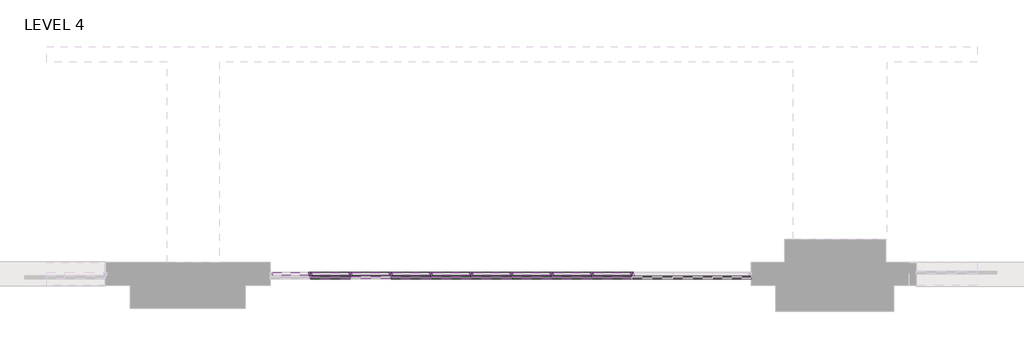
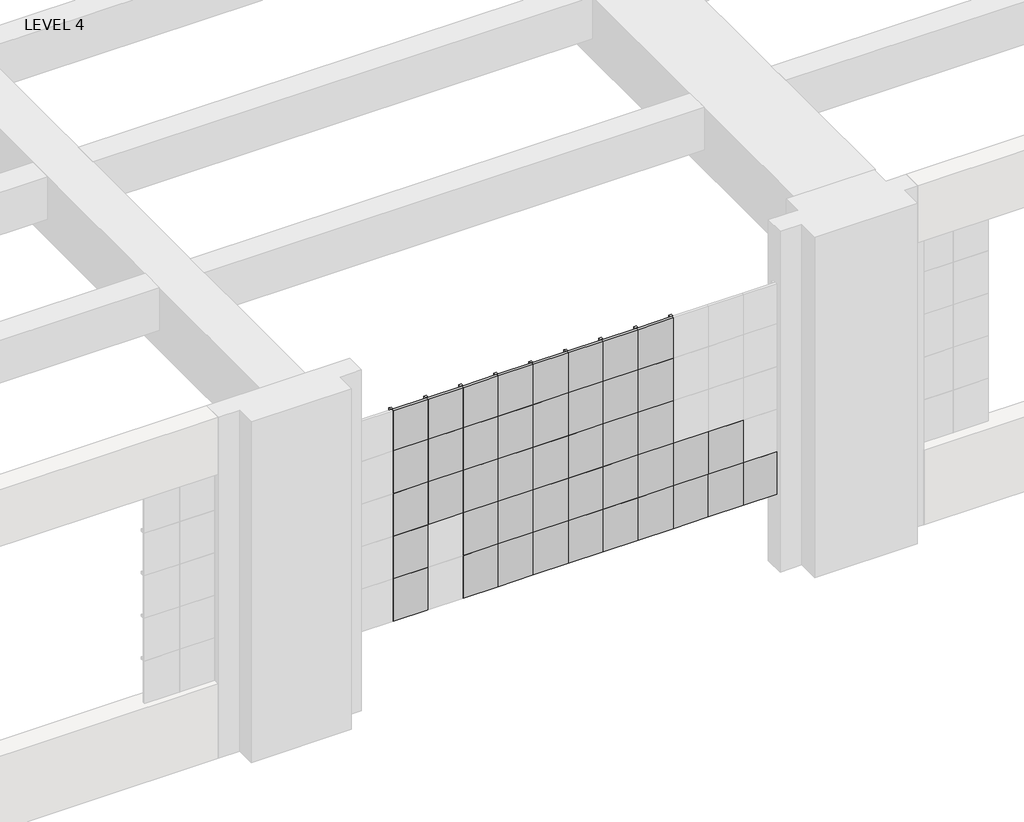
# One storey, part 7 of 26: 89 members, 43 plates.
"""IFC4 building model written with IfcOpenShell, lengths in millimetres."""

from ifc_helpers import new_model, si_unit, origin, place, context, project, spatial, transform, mapped, element, save
from components import member_3d4b608b, member_3c10d71f, member_653bb31e, member_6e26db71, member_d9fec558, system_panel_glazed_ab35d819, system_panel_glazed_331c9a5d, system_panel_glazed_418eb6cd

model = new_model("IFC4")

# Units and contexts
model_context = context("Model", 3, world=origin())
ifc_project = project(units=[si_unit("LENGTHUNIT", "METRE", prefix="MILLI")], contexts=[model_context])

# Site, building, storey
site = spatial("IfcSite", under=ifc_project)
building = spatial("IfcBuilding", under=site)
storey = spatial("IfcBuildingStorey", under=building, Name="LEVEL 4", Elevation=0.0)

# Members
placement = place(None, origin())
member_shape = member_3d4b608b(model_context)
element("IfcMember", 1, ObjectType="Circular Mullion : 1 1/4\" Square", at=placement, inside=storey, context=model_context, shape_type="MappedRepresentation", body=[
    mapped(member_shape, transform((-22006.1456347, 87322.5091334, 2171.7), x_axis=(1.0, 0.0, 0.0), y_axis=(0.0, -1.0, 0.0), z_axis=(0.0, 0.0, -1.0))),
])
element("IfcMember", 2, ObjectType="Circular Mullion : 1 1/4\" Square", at=placement, inside=storey, context=model_context, shape_type="MappedRepresentation", body=[
    mapped(member_shape, transform((-22006.1456347, 87322.5091334, 1714.5), x_axis=(1.0, 0.0, 0.0), y_axis=(0.0, -1.0, 0.0), z_axis=(0.0, 0.0, -1.0))),
])
element("IfcMember", 3, ObjectType="Circular Mullion : 1 1/4\" Square", at=placement, inside=storey, context=model_context, shape_type="MappedRepresentation", body=[
    mapped(member_shape, transform((-22006.1456347, 87322.5091334, 1257.3), x_axis=(1.0, 0.0, 0.0), y_axis=(0.0, -1.0, 0.0), z_axis=(0.0, 0.0, -1.0))),
])
element("IfcMember", 4, ObjectType="Circular Mullion : 1 1/4\" Square", at=placement, inside=storey, context=model_context, shape_type="MappedRepresentation", body=[
    mapped(member_shape, transform((-22361.7456347, 87322.5091334, 2171.7), x_axis=(1.0, 0.0, 0.0), y_axis=(0.0, -1.0, 0.0), z_axis=(0.0, 0.0, -1.0))),
])
element("IfcMember", 5, ObjectType="Circular Mullion : 1 1/4\" Square", at=placement, inside=storey, context=model_context, shape_type="MappedRepresentation", body=[
    mapped(member_shape, transform((-22361.7456347, 87322.5091334, 1714.5), x_axis=(1.0, 0.0, 0.0), y_axis=(0.0, -1.0, 0.0), z_axis=(0.0, 0.0, -1.0))),
])
element("IfcMember", 6, ObjectType="Circular Mullion : 1 1/4\" Square", at=placement, inside=storey, context=model_context, shape_type="MappedRepresentation", body=[
    mapped(member_shape, transform((-22361.7456347, 87322.5091334, 1257.3), x_axis=(1.0, 0.0, 0.0), y_axis=(0.0, -1.0, 0.0), z_axis=(0.0, 0.0, -1.0))),
])
element("IfcMember", 7, ObjectType="Circular Mullion : 1 1/4\" Square", at=placement, inside=storey, context=model_context, shape_type="MappedRepresentation", body=[
    mapped(member_shape, transform((-22717.3456347, 87322.5091334, 2171.7), x_axis=(1.0, 0.0, 0.0), y_axis=(0.0, -1.0, 0.0), z_axis=(0.0, 0.0, -1.0))),
])
element("IfcMember", 8, ObjectType="Circular Mullion : 1 1/4\" Square", at=placement, inside=storey, context=model_context, shape_type="MappedRepresentation", body=[
    mapped(member_shape, transform((-22717.3456347, 87322.5091334, 1714.5), x_axis=(1.0, 0.0, 0.0), y_axis=(0.0, -1.0, 0.0), z_axis=(0.0, 0.0, -1.0))),
])
element("IfcMember", 9, ObjectType="Circular Mullion : 1 1/4\" Square", at=placement, inside=storey, context=model_context, shape_type="MappedRepresentation", body=[
    mapped(member_shape, transform((-22717.3456347, 87322.5091334, 1257.3), x_axis=(1.0, 0.0, 0.0), y_axis=(0.0, -1.0, 0.0), z_axis=(0.0, 0.0, -1.0))),
])
element("IfcMember", 10, ObjectType="Circular Mullion : 1 1/4\" Square", at=placement, inside=storey, context=model_context, shape_type="MappedRepresentation", body=[
    mapped(member_shape, transform((-23072.9456347, 87322.5091334, 2171.7), x_axis=(1.0, 0.0, 0.0), y_axis=(0.0, -1.0, 0.0), z_axis=(0.0, 0.0, -1.0))),
])
element("IfcMember", 11, ObjectType="Circular Mullion : 1 1/4\" Square", at=placement, inside=storey, context=model_context, shape_type="MappedRepresentation", body=[
    mapped(member_shape, transform((-23072.9456347, 87322.5091334, 1714.5), x_axis=(1.0, 0.0, 0.0), y_axis=(0.0, -1.0, 0.0), z_axis=(0.0, 0.0, -1.0))),
])
element("IfcMember", 12, ObjectType="Circular Mullion : 1 1/4\" Square", at=placement, inside=storey, context=model_context, shape_type="MappedRepresentation", body=[
    mapped(member_shape, transform((-23072.9456347, 87322.5091334, 1257.3), x_axis=(1.0, 0.0, 0.0), y_axis=(0.0, -1.0, 0.0), z_axis=(0.0, 0.0, -1.0))),
])
element("IfcMember", 13, ObjectType="Circular Mullion : 1 1/4\" Square", at=placement, inside=storey, context=model_context, shape_type="MappedRepresentation", body=[
    mapped(member_shape, transform((-23428.5456347, 87322.5091334, 2171.7), x_axis=(1.0, 0.0, 0.0), y_axis=(0.0, -1.0, 0.0), z_axis=(0.0, 0.0, -1.0))),
])
element("IfcMember", 14, ObjectType="Circular Mullion : 1 1/4\" Square", at=placement, inside=storey, context=model_context, shape_type="MappedRepresentation", body=[
    mapped(member_shape, transform((-23428.5456347, 87322.5091334, 1714.5), x_axis=(1.0, 0.0, 0.0), y_axis=(0.0, -1.0, 0.0), z_axis=(0.0, 0.0, -1.0))),
])
element("IfcMember", 15, ObjectType="Circular Mullion : 1 1/4\" Square", at=placement, inside=storey, context=model_context, shape_type="MappedRepresentation", body=[
    mapped(member_shape, transform((-23428.5456347, 87322.5091334, 1257.3), x_axis=(1.0, 0.0, 0.0), y_axis=(0.0, -1.0, 0.0), z_axis=(0.0, 0.0, -1.0))),
])
element("IfcMember", 16, ObjectType="Circular Mullion : 1 1/4\" Square", at=placement, inside=storey, context=model_context, shape_type="MappedRepresentation", body=[
    mapped(member_shape, transform((-23784.1456347, 87322.5091334, 2171.7), x_axis=(1.0, 0.0, 0.0), y_axis=(0.0, -1.0, 0.0), z_axis=(0.0, 0.0, -1.0))),
])
element("IfcMember", 17, ObjectType="Circular Mullion : 1 1/4\" Square", at=placement, inside=storey, context=model_context, shape_type="MappedRepresentation", body=[
    mapped(member_shape, transform((-23784.1456347, 87322.5091334, 1714.5), x_axis=(1.0, 0.0, 0.0), y_axis=(0.0, -1.0, 0.0), z_axis=(0.0, 0.0, -1.0))),
])
element("IfcMember", 18, ObjectType="Circular Mullion : 1 1/4\" Square", at=placement, inside=storey, context=model_context, shape_type="MappedRepresentation", body=[
    mapped(member_shape, transform((-23784.1456347, 87322.5091334, 1257.3), x_axis=(1.0, 0.0, 0.0), y_axis=(0.0, -1.0, 0.0), z_axis=(0.0, 0.0, -1.0))),
])
element("IfcMember", 19, ObjectType="Circular Mullion : 1 1/4\" Square", at=placement, inside=storey, context=model_context, shape_type="MappedRepresentation", body=[
    mapped(member_shape, transform((-24139.7456347, 87322.5091334, 2171.7), x_axis=(1.0, 0.0, 0.0), y_axis=(0.0, -1.0, 0.0), z_axis=(0.0, 0.0, -1.0))),
])
element("IfcMember", 20, ObjectType="Circular Mullion : 1 1/4\" Square", at=placement, inside=storey, context=model_context, shape_type="MappedRepresentation", body=[
    mapped(member_shape, transform((-24139.7456347, 87322.5091334, 1714.5), x_axis=(1.0, 0.0, 0.0), y_axis=(0.0, -1.0, 0.0), z_axis=(0.0, 0.0, -1.0))),
])
element("IfcMember", 21, ObjectType="Circular Mullion : 1 1/4\" Square", at=placement, inside=storey, context=model_context, shape_type="MappedRepresentation", body=[
    mapped(member_shape, transform((-24139.7456347, 87322.5091334, 1257.3), x_axis=(1.0, 0.0, 0.0), y_axis=(0.0, -1.0, 0.0), z_axis=(0.0, 0.0, -1.0))),
])
element("IfcMember", 22, ObjectType="Circular Mullion : 1 1/4\" Square", at=placement, inside=storey, context=model_context, shape_type="MappedRepresentation", body=[
    mapped(member_shape, transform((-24495.3456347, 87322.5091334, 2171.7), x_axis=(1.0, 0.0, 0.0), y_axis=(0.0, -1.0, 0.0), z_axis=(0.0, 0.0, -1.0))),
])
element("IfcMember", 23, ObjectType="Circular Mullion : 1 1/4\" Square", at=placement, inside=storey, context=model_context, shape_type="MappedRepresentation", body=[
    mapped(member_shape, transform((-24495.3456347, 87322.5091334, 1714.5), x_axis=(1.0, 0.0, 0.0), y_axis=(0.0, -1.0, 0.0), z_axis=(0.0, 0.0, -1.0))),
])
element("IfcMember", 24, ObjectType="Circular Mullion : 1 1/4\" Square", at=placement, inside=storey, context=model_context, shape_type="MappedRepresentation", body=[
    mapped(member_shape, transform((-24495.3456347, 87322.5091334, 1257.3), x_axis=(1.0, 0.0, 0.0), y_axis=(0.0, -1.0, 0.0), z_axis=(0.0, 0.0, -1.0))),
])
element("IfcMember", 25, ObjectType="Circular Mullion : 1 1/4\" Square", at=placement, inside=storey, context=model_context, shape_type="MappedRepresentation", body=[
    mapped(member_shape, transform((-24850.9456347, 87322.5091334, 2171.7), x_axis=(1.0, 0.0, 0.0), y_axis=(0.0, -1.0, 0.0), z_axis=(0.0, 0.0, -1.0))),
])
element("IfcMember", 26, ObjectType="Circular Mullion : 1 1/4\" Square", at=placement, inside=storey, context=model_context, shape_type="MappedRepresentation", body=[
    mapped(member_shape, transform((-24850.9456347, 87322.5091334, 1714.5), x_axis=(1.0, 0.0, 0.0), y_axis=(0.0, -1.0, 0.0), z_axis=(0.0, 0.0, -1.0))),
])
element("IfcMember", 27, ObjectType="Circular Mullion : 1 1/4\" Square", at=placement, inside=storey, context=model_context, shape_type="MappedRepresentation", body=[
    mapped(member_shape, transform((-24850.9456347, 87322.5091334, 1257.3), x_axis=(1.0, 0.0, 0.0), y_axis=(0.0, -1.0, 0.0), z_axis=(0.0, 0.0, -1.0))),
])
element("IfcMember", 28, ObjectType="Circular Mullion : 1 1/4\" Square", at=placement, inside=storey, context=model_context, shape_type="MappedRepresentation", body=[
    mapped(member_shape, transform((-22006.1456347, 87322.5091334, 800.1), x_axis=(1.0, 0.0, 0.0), y_axis=(0.0, -1.0, 0.0), z_axis=(0.0, 0.0, -1.0))),
])
element("IfcMember", 29, ObjectType="Circular Mullion : 1 1/4\" Square", at=placement, inside=storey, context=model_context, shape_type="MappedRepresentation", body=[
    mapped(member_shape, transform((-22361.7456347, 87322.5091334, 800.1), x_axis=(1.0, 0.0, 0.0), y_axis=(0.0, -1.0, 0.0), z_axis=(0.0, 0.0, -1.0))),
])
element("IfcMember", 30, ObjectType="Circular Mullion : 1 1/4\" Square", at=placement, inside=storey, context=model_context, shape_type="MappedRepresentation", body=[
    mapped(member_shape, transform((-22717.3456347, 87322.5091334, 800.1), x_axis=(1.0, 0.0, 0.0), y_axis=(0.0, -1.0, 0.0), z_axis=(0.0, 0.0, -1.0))),
])
element("IfcMember", 31, ObjectType="Circular Mullion : 1 1/4\" Square", at=placement, inside=storey, context=model_context, shape_type="MappedRepresentation", body=[
    mapped(member_shape, transform((-23072.9456347, 87322.5091334, 800.1), x_axis=(1.0, 0.0, 0.0), y_axis=(0.0, -1.0, 0.0), z_axis=(0.0, 0.0, -1.0))),
])
element("IfcMember", 32, ObjectType="Circular Mullion : 1 1/4\" Square", at=placement, inside=storey, context=model_context, shape_type="MappedRepresentation", body=[
    mapped(member_shape, transform((-23428.5456347, 87322.5091334, 800.1), x_axis=(1.0, 0.0, 0.0), y_axis=(0.0, -1.0, 0.0), z_axis=(0.0, 0.0, -1.0))),
])
element("IfcMember", 33, ObjectType="Circular Mullion : 1 1/4\" Square", at=placement, inside=storey, context=model_context, shape_type="MappedRepresentation", body=[
    mapped(member_shape, transform((-23784.1456347, 87322.5091334, 800.1), x_axis=(1.0, 0.0, 0.0), y_axis=(0.0, -1.0, 0.0), z_axis=(0.0, 0.0, -1.0))),
])
element("IfcMember", 34, ObjectType="Circular Mullion : 1 1/4\" Square", at=placement, inside=storey, context=model_context, shape_type="MappedRepresentation", body=[
    mapped(member_shape, transform((-24139.7456347, 87322.5091334, 800.1), x_axis=(1.0, 0.0, 0.0), y_axis=(0.0, -1.0, 0.0), z_axis=(0.0, 0.0, -1.0))),
])
element("IfcMember", 35, ObjectType="Circular Mullion : 1 1/4\" Square", at=placement, inside=storey, context=model_context, shape_type="MappedRepresentation", body=[
    mapped(member_shape, transform((-24495.3456347, 87322.5091334, 800.1), x_axis=(1.0, 0.0, 0.0), y_axis=(0.0, -1.0, 0.0), z_axis=(0.0, 0.0, -1.0))),
])
element("IfcMember", 36, ObjectType="Circular Mullion : 1 1/4\" Square", at=placement, inside=storey, context=model_context, shape_type="MappedRepresentation", body=[
    mapped(member_shape, transform((-24850.9456347, 87322.5091334, 800.1), x_axis=(1.0, 0.0, 0.0), y_axis=(0.0, -1.0, 0.0), z_axis=(0.0, 0.0, -1.0))),
])
member_2_shape = member_3c10d71f(model_context)
element("IfcMember", 37, ObjectType="Circular Mullion : 1 1/4\" Square", at=placement, inside=storey, context=model_context, shape_type="MappedRepresentation", body=[
    mapped(member_2_shape, transform((-24838.2456347, 87322.5091334, 800.1), x_axis=(0.0, 0.0, -1.0), y_axis=(0.0, -1.0, 0.0), z_axis=(-1.0, 0.0, 0.0))),
])
element("IfcMember", 38, ObjectType="Circular Mullion : 1 1/4\" Square", at=placement, inside=storey, context=model_context, shape_type="MappedRepresentation", body=[
    mapped(member_2_shape, transform((-24482.6456347, 87322.5091334, 800.1), x_axis=(0.0, 0.0, -1.0), y_axis=(0.0, -1.0, 0.0), z_axis=(-1.0, 0.0, 0.0))),
])
element("IfcMember", 39, ObjectType="Circular Mullion : 1 1/4\" Square", at=placement, inside=storey, context=model_context, shape_type="MappedRepresentation", body=[
    mapped(member_2_shape, transform((-24127.0456347, 87322.5091334, 800.1), x_axis=(0.0, 0.0, -1.0), y_axis=(0.0, -1.0, 0.0), z_axis=(-1.0, 0.0, 0.0))),
])
element("IfcMember", 40, ObjectType="Circular Mullion : 1 1/4\" Square", at=placement, inside=storey, context=model_context, shape_type="MappedRepresentation", body=[
    mapped(member_2_shape, transform((-23771.4456347, 87322.5091334, 800.1), x_axis=(0.0, 0.0, -1.0), y_axis=(0.0, -1.0, 0.0), z_axis=(-1.0, 0.0, 0.0))),
])
element("IfcMember", 41, ObjectType="Circular Mullion : 1 1/4\" Square", at=placement, inside=storey, context=model_context, shape_type="MappedRepresentation", body=[
    mapped(member_2_shape, transform((-23415.8456347, 87322.5091334, 800.1), x_axis=(0.0, 0.0, -1.0), y_axis=(0.0, -1.0, 0.0), z_axis=(-1.0, 0.0, 0.0))),
])
element("IfcMember", 42, ObjectType="Circular Mullion : 1 1/4\" Square", at=placement, inside=storey, context=model_context, shape_type="MappedRepresentation", body=[
    mapped(member_2_shape, transform((-23060.2456347, 87322.5091334, 800.1), x_axis=(0.0, 0.0, -1.0), y_axis=(0.0, -1.0, 0.0), z_axis=(-1.0, 0.0, 0.0))),
])
element("IfcMember", 43, ObjectType="Circular Mullion : 1 1/4\" Square", at=placement, inside=storey, context=model_context, shape_type="MappedRepresentation", body=[
    mapped(member_2_shape, transform((-22704.6456347, 87322.5091334, 800.1), x_axis=(0.0, 0.0, -1.0), y_axis=(0.0, -1.0, 0.0), z_axis=(-1.0, 0.0, 0.0))),
])
element("IfcMember", 44, ObjectType="Circular Mullion : 1 1/4\" Square", at=placement, inside=storey, context=model_context, shape_type="MappedRepresentation", body=[
    mapped(member_2_shape, transform((-22349.0456347, 87322.5091334, 800.1), x_axis=(0.0, 0.0, -1.0), y_axis=(0.0, -1.0, 0.0), z_axis=(-1.0, 0.0, 0.0))),
])
member_3_shape = member_653bb31e(model_context)
element("IfcMember", 45, ObjectType="Circular Mullion : 1 1/4\" Square", at=placement, inside=storey, context=model_context, shape_type="MappedRepresentation", body=[
    mapped(member_3_shape, transform((-24508.0456347, 87322.5091334, 2628.9), x_axis=(0.0, 0.0, 1.0), y_axis=(0.0, -1.0, 0.0), z_axis=(1.0, 0.0, 0.0))),
])
element("IfcMember", 46, ObjectType="Circular Mullion : 1 1/4\" Square", at=placement, inside=storey, context=model_context, shape_type="MappedRepresentation", body=[
    mapped(member_3_shape, transform((-24152.4456347, 87322.5091334, 2628.9), x_axis=(0.0, 0.0, 1.0), y_axis=(0.0, -1.0, 0.0), z_axis=(1.0, 0.0, 0.0))),
])
element("IfcMember", 47, ObjectType="Circular Mullion : 1 1/4\" Square", at=placement, inside=storey, context=model_context, shape_type="MappedRepresentation", body=[
    mapped(member_3_shape, transform((-23796.8456347, 87322.5091334, 2628.9), x_axis=(0.0, 0.0, 1.0), y_axis=(0.0, -1.0, 0.0), z_axis=(1.0, 0.0, 0.0))),
])
element("IfcMember", 48, ObjectType="Circular Mullion : 1 1/4\" Square", at=placement, inside=storey, context=model_context, shape_type="MappedRepresentation", body=[
    mapped(member_3_shape, transform((-23441.2456347, 87322.5091334, 2628.9), x_axis=(0.0, 0.0, 1.0), y_axis=(0.0, -1.0, 0.0), z_axis=(1.0, 0.0, 0.0))),
])
element("IfcMember", 49, ObjectType="Circular Mullion : 1 1/4\" Square", at=placement, inside=storey, context=model_context, shape_type="MappedRepresentation", body=[
    mapped(member_3_shape, transform((-23085.6456347, 87322.5091334, 2628.9), x_axis=(0.0, 0.0, 1.0), y_axis=(0.0, -1.0, 0.0), z_axis=(1.0, 0.0, 0.0))),
])
element("IfcMember", 50, ObjectType="Circular Mullion : 1 1/4\" Square", at=placement, inside=storey, context=model_context, shape_type="MappedRepresentation", body=[
    mapped(member_3_shape, transform((-22730.0456347, 87322.5091334, 2628.9), x_axis=(0.0, 0.0, 1.0), y_axis=(0.0, -1.0, 0.0), z_axis=(1.0, 0.0, 0.0))),
])
element("IfcMember", 51, ObjectType="Circular Mullion : 1 1/4\" Square", at=placement, inside=storey, context=model_context, shape_type="MappedRepresentation", body=[
    mapped(member_3_shape, transform((-22374.4456347, 87322.5091334, 2628.9), x_axis=(0.0, 0.0, 1.0), y_axis=(0.0, -1.0, 0.0), z_axis=(1.0, 0.0, 0.0))),
])
element("IfcMember", 52, ObjectType="Circular Mullion : 1 1/4\" Square", at=placement, inside=storey, context=model_context, shape_type="MappedRepresentation", body=[
    mapped(member_3_shape, transform((-22018.8456347, 87322.5091334, 2628.9), x_axis=(0.0, 0.0, 1.0), y_axis=(0.0, -1.0, 0.0), z_axis=(1.0, 0.0, 0.0))),
])
element("IfcMember", 53, ObjectType="Circular Mullion : 1 1/4\" Square", at=placement, inside=storey, context=model_context, shape_type="MappedRepresentation", body=[
    mapped(member_3_shape, transform((-24508.0456347, 87322.5091334, 2171.7), x_axis=(0.0, 0.0, 1.0), y_axis=(0.0, -1.0, 0.0), z_axis=(1.0, 0.0, 0.0))),
])
element("IfcMember", 54, ObjectType="Circular Mullion : 1 1/4\" Square", at=placement, inside=storey, context=model_context, shape_type="MappedRepresentation", body=[
    mapped(member_3_shape, transform((-24152.4456347, 87322.5091334, 2171.7), x_axis=(0.0, 0.0, 1.0), y_axis=(0.0, -1.0, 0.0), z_axis=(1.0, 0.0, 0.0))),
])
element("IfcMember", 55, ObjectType="Circular Mullion : 1 1/4\" Square", at=placement, inside=storey, context=model_context, shape_type="MappedRepresentation", body=[
    mapped(member_3_shape, transform((-23796.8456347, 87322.5091334, 2171.7), x_axis=(0.0, 0.0, 1.0), y_axis=(0.0, -1.0, 0.0), z_axis=(1.0, 0.0, 0.0))),
])
element("IfcMember", 56, ObjectType="Circular Mullion : 1 1/4\" Square", at=placement, inside=storey, context=model_context, shape_type="MappedRepresentation", body=[
    mapped(member_3_shape, transform((-23441.2456347, 87322.5091334, 2171.7), x_axis=(0.0, 0.0, 1.0), y_axis=(0.0, -1.0, 0.0), z_axis=(1.0, 0.0, 0.0))),
])
element("IfcMember", 57, ObjectType="Circular Mullion : 1 1/4\" Square", at=placement, inside=storey, context=model_context, shape_type="MappedRepresentation", body=[
    mapped(member_3_shape, transform((-23085.6456347, 87322.5091334, 2171.7), x_axis=(0.0, 0.0, 1.0), y_axis=(0.0, -1.0, 0.0), z_axis=(1.0, 0.0, 0.0))),
])
element("IfcMember", 58, ObjectType="Circular Mullion : 1 1/4\" Square", at=placement, inside=storey, context=model_context, shape_type="MappedRepresentation", body=[
    mapped(member_3_shape, transform((-22730.0456347, 87322.5091334, 2171.7), x_axis=(0.0, 0.0, 1.0), y_axis=(0.0, -1.0, 0.0), z_axis=(1.0, 0.0, 0.0))),
])
element("IfcMember", 59, ObjectType="Circular Mullion : 1 1/4\" Square", at=placement, inside=storey, context=model_context, shape_type="MappedRepresentation", body=[
    mapped(member_3_shape, transform((-22374.4456347, 87322.5091334, 2171.7), x_axis=(0.0, 0.0, 1.0), y_axis=(0.0, -1.0, 0.0), z_axis=(1.0, 0.0, 0.0))),
])
element("IfcMember", 60, ObjectType="Circular Mullion : 1 1/4\" Square", at=placement, inside=storey, context=model_context, shape_type="MappedRepresentation", body=[
    mapped(member_3_shape, transform((-22018.8456347, 87322.5091334, 2171.7), x_axis=(0.0, 0.0, 1.0), y_axis=(0.0, -1.0, 0.0), z_axis=(1.0, 0.0, 0.0))),
])
element("IfcMember", 61, ObjectType="Circular Mullion : 1 1/4\" Square", at=placement, inside=storey, context=model_context, shape_type="MappedRepresentation", body=[
    mapped(member_3_shape, transform((-24508.0456347, 87322.5091334, 1714.5), x_axis=(0.0, 0.0, 1.0), y_axis=(0.0, -1.0, 0.0), z_axis=(1.0, 0.0, 0.0))),
])
element("IfcMember", 62, ObjectType="Circular Mullion : 1 1/4\" Square", at=placement, inside=storey, context=model_context, shape_type="MappedRepresentation", body=[
    mapped(member_3_shape, transform((-24152.4456347, 87322.5091334, 1714.5), x_axis=(0.0, 0.0, 1.0), y_axis=(0.0, -1.0, 0.0), z_axis=(1.0, 0.0, 0.0))),
])
element("IfcMember", 63, ObjectType="Circular Mullion : 1 1/4\" Square", at=placement, inside=storey, context=model_context, shape_type="MappedRepresentation", body=[
    mapped(member_3_shape, transform((-23796.8456347, 87322.5091334, 1714.5), x_axis=(0.0, 0.0, 1.0), y_axis=(0.0, -1.0, 0.0), z_axis=(1.0, 0.0, 0.0))),
])
element("IfcMember", 64, ObjectType="Circular Mullion : 1 1/4\" Square", at=placement, inside=storey, context=model_context, shape_type="MappedRepresentation", body=[
    mapped(member_3_shape, transform((-23441.2456347, 87322.5091334, 1714.5), x_axis=(0.0, 0.0, 1.0), y_axis=(0.0, -1.0, 0.0), z_axis=(1.0, 0.0, 0.0))),
])
element("IfcMember", 65, ObjectType="Circular Mullion : 1 1/4\" Square", at=placement, inside=storey, context=model_context, shape_type="MappedRepresentation", body=[
    mapped(member_3_shape, transform((-23085.6456347, 87322.5091334, 1714.5), x_axis=(0.0, 0.0, 1.0), y_axis=(0.0, -1.0, 0.0), z_axis=(1.0, 0.0, 0.0))),
])
element("IfcMember", 66, ObjectType="Circular Mullion : 1 1/4\" Square", at=placement, inside=storey, context=model_context, shape_type="MappedRepresentation", body=[
    mapped(member_3_shape, transform((-22730.0456347, 87322.5091334, 1714.5), x_axis=(0.0, 0.0, 1.0), y_axis=(0.0, -1.0, 0.0), z_axis=(1.0, 0.0, 0.0))),
])
element("IfcMember", 67, ObjectType="Circular Mullion : 1 1/4\" Square", at=placement, inside=storey, context=model_context, shape_type="MappedRepresentation", body=[
    mapped(member_3_shape, transform((-22374.4456347, 87322.5091334, 1714.5), x_axis=(0.0, 0.0, 1.0), y_axis=(0.0, -1.0, 0.0), z_axis=(1.0, 0.0, 0.0))),
])
element("IfcMember", 68, ObjectType="Circular Mullion : 1 1/4\" Square", at=placement, inside=storey, context=model_context, shape_type="MappedRepresentation", body=[
    mapped(member_3_shape, transform((-22018.8456347, 87322.5091334, 1714.5), x_axis=(0.0, 0.0, 1.0), y_axis=(0.0, -1.0, 0.0), z_axis=(1.0, 0.0, 0.0))),
])
element("IfcMember", 69, ObjectType="Circular Mullion : 1 1/4\" Square", at=placement, inside=storey, context=model_context, shape_type="MappedRepresentation", body=[
    mapped(member_3_shape, transform((-24508.0456347, 87322.5091334, 1257.3), x_axis=(0.0, 0.0, 1.0), y_axis=(0.0, -1.0, 0.0), z_axis=(1.0, 0.0, 0.0))),
])
element("IfcMember", 70, ObjectType="Circular Mullion : 1 1/4\" Square", at=placement, inside=storey, context=model_context, shape_type="MappedRepresentation", body=[
    mapped(member_3_shape, transform((-24152.4456347, 87322.5091334, 1257.3), x_axis=(0.0, 0.0, 1.0), y_axis=(0.0, -1.0, 0.0), z_axis=(1.0, 0.0, 0.0))),
])
element("IfcMember", 71, ObjectType="Circular Mullion : 1 1/4\" Square", at=placement, inside=storey, context=model_context, shape_type="MappedRepresentation", body=[
    mapped(member_3_shape, transform((-23796.8456347, 87322.5091334, 1257.3), x_axis=(0.0, 0.0, 1.0), y_axis=(0.0, -1.0, 0.0), z_axis=(1.0, 0.0, 0.0))),
])
element("IfcMember", 72, ObjectType="Circular Mullion : 1 1/4\" Square", at=placement, inside=storey, context=model_context, shape_type="MappedRepresentation", body=[
    mapped(member_3_shape, transform((-23441.2456347, 87322.5091334, 1257.3), x_axis=(0.0, 0.0, 1.0), y_axis=(0.0, -1.0, 0.0), z_axis=(1.0, 0.0, 0.0))),
])
element("IfcMember", 73, ObjectType="Circular Mullion : 1 1/4\" Square", at=placement, inside=storey, context=model_context, shape_type="MappedRepresentation", body=[
    mapped(member_3_shape, transform((-23085.6456347, 87322.5091334, 1257.3), x_axis=(0.0, 0.0, 1.0), y_axis=(0.0, -1.0, 0.0), z_axis=(1.0, 0.0, 0.0))),
])
element("IfcMember", 74, ObjectType="Circular Mullion : 1 1/4\" Square", at=placement, inside=storey, context=model_context, shape_type="MappedRepresentation", body=[
    mapped(member_3_shape, transform((-22730.0456347, 87322.5091334, 1257.3), x_axis=(0.0, 0.0, 1.0), y_axis=(0.0, -1.0, 0.0), z_axis=(1.0, 0.0, 0.0))),
])
element("IfcMember", 75, ObjectType="Circular Mullion : 1 1/4\" Square", at=placement, inside=storey, context=model_context, shape_type="MappedRepresentation", body=[
    mapped(member_3_shape, transform((-22374.4456347, 87322.5091334, 1257.3), x_axis=(0.0, 0.0, 1.0), y_axis=(0.0, -1.0, 0.0), z_axis=(1.0, 0.0, 0.0))),
])
element("IfcMember", 76, ObjectType="Circular Mullion : 1 1/4\" Square", at=placement, inside=storey, context=model_context, shape_type="MappedRepresentation", body=[
    mapped(member_3_shape, transform((-22018.8456347, 87322.5091334, 1257.3), x_axis=(0.0, 0.0, 1.0), y_axis=(0.0, -1.0, 0.0), z_axis=(1.0, 0.0, 0.0))),
])
member_4_shape = member_6e26db71(model_context)
element("IfcMember", 77, ObjectType="Circular Mullion : 1 1/4\" Square", at=placement, inside=storey, context=model_context, shape_type="MappedRepresentation", body=[
    mapped(member_4_shape, transform((-24863.6456347, 87322.5091334, 2628.9), x_axis=(0.0, 0.0, 1.0), y_axis=(0.0, -1.0, 0.0), z_axis=(1.0, 0.0, 0.0))),
])
element("IfcMember", 78, ObjectType="Circular Mullion : 1 1/4\" Square", at=placement, inside=storey, context=model_context, shape_type="MappedRepresentation", body=[
    mapped(member_4_shape, transform((-24863.6456347, 87322.5091334, 2171.7), x_axis=(0.0, 0.0, 1.0), y_axis=(0.0, -1.0, 0.0), z_axis=(1.0, 0.0, 0.0))),
])
element("IfcMember", 79, ObjectType="Circular Mullion : 1 1/4\" Square", at=placement, inside=storey, context=model_context, shape_type="MappedRepresentation", body=[
    mapped(member_4_shape, transform((-24863.6456347, 87322.5091334, 1714.5), x_axis=(0.0, 0.0, 1.0), y_axis=(0.0, -1.0, 0.0), z_axis=(1.0, 0.0, 0.0))),
])
element("IfcMember", 80, ObjectType="Circular Mullion : 1 1/4\" Square", at=placement, inside=storey, context=model_context, shape_type="MappedRepresentation", body=[
    mapped(member_4_shape, transform((-24863.6456347, 87322.5091334, 1257.3), x_axis=(0.0, 0.0, 1.0), y_axis=(0.0, -1.0, 0.0), z_axis=(1.0, 0.0, 0.0))),
])
member_5_shape = member_d9fec558(model_context)
element("IfcMember", 81, ObjectType="Circular Mullion : 1 1/4\" Square", at=placement, inside=storey, context=model_context, shape_type="MappedRepresentation", body=[
    mapped(member_5_shape, transform((-22006.1456347, 87322.5091334, 2628.9), x_axis=(1.0, 0.0, 0.0), y_axis=(0.0, -1.0, 0.0), z_axis=(0.0, 0.0, -1.0))),
])
element("IfcMember", 82, ObjectType="Circular Mullion : 1 1/4\" Square", at=placement, inside=storey, context=model_context, shape_type="MappedRepresentation", body=[
    mapped(member_5_shape, transform((-22361.7456347, 87322.5091334, 2628.9), x_axis=(1.0, 0.0, 0.0), y_axis=(0.0, -1.0, 0.0), z_axis=(0.0, 0.0, -1.0))),
])
element("IfcMember", 83, ObjectType="Circular Mullion : 1 1/4\" Square", at=placement, inside=storey, context=model_context, shape_type="MappedRepresentation", body=[
    mapped(member_5_shape, transform((-22717.3456347, 87322.5091334, 2628.9), x_axis=(1.0, 0.0, 0.0), y_axis=(0.0, -1.0, 0.0), z_axis=(0.0, 0.0, -1.0))),
])
element("IfcMember", 84, ObjectType="Circular Mullion : 1 1/4\" Square", at=placement, inside=storey, context=model_context, shape_type="MappedRepresentation", body=[
    mapped(member_5_shape, transform((-23072.9456347, 87322.5091334, 2628.9), x_axis=(1.0, 0.0, 0.0), y_axis=(0.0, -1.0, 0.0), z_axis=(0.0, 0.0, -1.0))),
])
element("IfcMember", 85, ObjectType="Circular Mullion : 1 1/4\" Square", at=placement, inside=storey, context=model_context, shape_type="MappedRepresentation", body=[
    mapped(member_5_shape, transform((-23428.5456347, 87322.5091334, 2628.9), x_axis=(1.0, 0.0, 0.0), y_axis=(0.0, -1.0, 0.0), z_axis=(0.0, 0.0, -1.0))),
])
element("IfcMember", 86, ObjectType="Circular Mullion : 1 1/4\" Square", at=placement, inside=storey, context=model_context, shape_type="MappedRepresentation", body=[
    mapped(member_5_shape, transform((-23784.1456347, 87322.5091334, 2628.9), x_axis=(1.0, 0.0, 0.0), y_axis=(0.0, -1.0, 0.0), z_axis=(0.0, 0.0, -1.0))),
])
element("IfcMember", 87, ObjectType="Circular Mullion : 1 1/4\" Square", at=placement, inside=storey, context=model_context, shape_type="MappedRepresentation", body=[
    mapped(member_5_shape, transform((-24139.7456347, 87322.5091334, 2628.9), x_axis=(1.0, 0.0, 0.0), y_axis=(0.0, -1.0, 0.0), z_axis=(0.0, 0.0, -1.0))),
])
element("IfcMember", 88, ObjectType="Circular Mullion : 1 1/4\" Square", at=placement, inside=storey, context=model_context, shape_type="MappedRepresentation", body=[
    mapped(member_5_shape, transform((-24495.3456347, 87322.5091334, 2628.9), x_axis=(1.0, 0.0, 0.0), y_axis=(0.0, -1.0, 0.0), z_axis=(0.0, 0.0, -1.0))),
])
element("IfcMember", 89, ObjectType="Circular Mullion : 1 1/4\" Square", at=placement, inside=storey, context=model_context, shape_type="MappedRepresentation", body=[
    mapped(member_5_shape, transform((-24850.9456347, 87322.5091334, 2628.9), x_axis=(1.0, 0.0, 0.0), y_axis=(0.0, -1.0, 0.0), z_axis=(0.0, 0.0, -1.0))),
])

# Plates
system_panel_glazed_shape = system_panel_glazed_ab35d819(model_context)
element("IfcPlate", 90, ObjectType="System Panel : Glazed", at=placement, inside=storey, context=model_context, shape_type="MappedRepresentation", body=[
    mapped(system_panel_glazed_shape, transform((-21472.7456347, 87322.5091334, 800.1), x_axis=(1.0, 0.0, 0.0), y_axis=(0.0, 1.0, 0.0), z_axis=(0.0, 0.0, 1.0))),
])
element("IfcPlate", 91, ObjectType="System Panel : Glazed", at=placement, inside=storey, context=model_context, shape_type="MappedRepresentation", body=[
    mapped(system_panel_glazed_shape, transform((-21828.3456347, 87322.5091334, 800.1), x_axis=(1.0, 0.0, 0.0), y_axis=(0.0, 1.0, 0.0), z_axis=(0.0, 0.0, 1.0))),
])
element("IfcPlate", 92, ObjectType="System Panel : Glazed", at=placement, inside=storey, context=model_context, shape_type="MappedRepresentation", body=[
    mapped(system_panel_glazed_shape, transform((-22183.9456347, 87322.5091334, 800.1), x_axis=(1.0, 0.0, 0.0), y_axis=(0.0, 1.0, 0.0), z_axis=(0.0, 0.0, 1.0))),
])
element("IfcPlate", 93, ObjectType="System Panel : Glazed", at=placement, inside=storey, context=model_context, shape_type="MappedRepresentation", body=[
    mapped(system_panel_glazed_shape, transform((-22539.5456347, 87322.5091334, 800.1), x_axis=(1.0, 0.0, 0.0), y_axis=(0.0, 1.0, 0.0), z_axis=(0.0, 0.0, 1.0))),
])
element("IfcPlate", 94, ObjectType="System Panel : Glazed", at=placement, inside=storey, context=model_context, shape_type="MappedRepresentation", body=[
    mapped(system_panel_glazed_shape, transform((-22895.1456347, 87322.5091334, 800.1), x_axis=(1.0, 0.0, 0.0), y_axis=(0.0, 1.0, 0.0), z_axis=(0.0, 0.0, 1.0))),
])
element("IfcPlate", 95, ObjectType="System Panel : Glazed", at=placement, inside=storey, context=model_context, shape_type="MappedRepresentation", body=[
    mapped(system_panel_glazed_shape, transform((-23250.7456347, 87322.5091334, 800.1), x_axis=(1.0, 0.0, 0.0), y_axis=(0.0, 1.0, 0.0), z_axis=(0.0, 0.0, 1.0))),
])
element("IfcPlate", 96, ObjectType="System Panel : Glazed", at=placement, inside=storey, context=model_context, shape_type="MappedRepresentation", body=[
    mapped(system_panel_glazed_shape, transform((-23606.3456347, 87322.5091334, 800.1), x_axis=(1.0, 0.0, 0.0), y_axis=(0.0, 1.0, 0.0), z_axis=(0.0, 0.0, 1.0))),
])
element("IfcPlate", 97, ObjectType="System Panel : Glazed", at=placement, inside=storey, context=model_context, shape_type="MappedRepresentation", body=[
    mapped(system_panel_glazed_shape, transform((-23961.9456347, 87322.5091334, 800.1), x_axis=(1.0, 0.0, 0.0), y_axis=(0.0, 1.0, 0.0), z_axis=(0.0, 0.0, 1.0))),
])
element("IfcPlate", 98, ObjectType="System Panel : Glazed", at=placement, inside=storey, context=model_context, shape_type="MappedRepresentation", body=[
    mapped(system_panel_glazed_shape, transform((-21828.3456347, 87322.5091334, 1257.3), x_axis=(1.0, 0.0, 0.0), y_axis=(0.0, 1.0, 0.0), z_axis=(0.0, 0.0, 1.0))),
])
element("IfcPlate", 99, ObjectType="System Panel : Glazed", at=placement, inside=storey, context=model_context, shape_type="MappedRepresentation", body=[
    mapped(system_panel_glazed_shape, transform((-22183.9456347, 87322.5091334, 1257.3), x_axis=(1.0, 0.0, 0.0), y_axis=(0.0, 1.0, 0.0), z_axis=(0.0, 0.0, 1.0))),
])
element("IfcPlate", 100, ObjectType="System Panel : Glazed", at=placement, inside=storey, context=model_context, shape_type="MappedRepresentation", body=[
    mapped(system_panel_glazed_shape, transform((-22539.5456347, 87322.5091334, 1257.3), x_axis=(1.0, 0.0, 0.0), y_axis=(0.0, 1.0, 0.0), z_axis=(0.0, 0.0, 1.0))),
])
element("IfcPlate", 101, ObjectType="System Panel : Glazed", at=placement, inside=storey, context=model_context, shape_type="MappedRepresentation", body=[
    mapped(system_panel_glazed_shape, transform((-22895.1456347, 87322.5091334, 1257.3), x_axis=(1.0, 0.0, 0.0), y_axis=(0.0, 1.0, 0.0), z_axis=(0.0, 0.0, 1.0))),
])
element("IfcPlate", 102, ObjectType="System Panel : Glazed", at=placement, inside=storey, context=model_context, shape_type="MappedRepresentation", body=[
    mapped(system_panel_glazed_shape, transform((-23250.7456347, 87322.5091334, 1257.3), x_axis=(1.0, 0.0, 0.0), y_axis=(0.0, 1.0, 0.0), z_axis=(0.0, 0.0, 1.0))),
])
element("IfcPlate", 103, ObjectType="System Panel : Glazed", at=placement, inside=storey, context=model_context, shape_type="MappedRepresentation", body=[
    mapped(system_panel_glazed_shape, transform((-23606.3456347, 87322.5091334, 1257.3), x_axis=(1.0, 0.0, 0.0), y_axis=(0.0, 1.0, 0.0), z_axis=(0.0, 0.0, 1.0))),
])
element("IfcPlate", 104, ObjectType="System Panel : Glazed", at=placement, inside=storey, context=model_context, shape_type="MappedRepresentation", body=[
    mapped(system_panel_glazed_shape, transform((-23961.9456347, 87322.5091334, 1257.3), x_axis=(1.0, 0.0, 0.0), y_axis=(0.0, 1.0, 0.0), z_axis=(0.0, 0.0, 1.0))),
])
element("IfcPlate", 105, ObjectType="System Panel : Glazed", at=placement, inside=storey, context=model_context, shape_type="MappedRepresentation", body=[
    mapped(system_panel_glazed_shape, transform((-21472.7456347, 87322.5091334, 1257.3), x_axis=(1.0, 0.0, 0.0), y_axis=(0.0, 1.0, 0.0), z_axis=(0.0, 0.0, 1.0))),
])
element("IfcPlate", 106, ObjectType="System Panel : Glazed", at=placement, inside=storey, context=model_context, shape_type="MappedRepresentation", body=[
    mapped(system_panel_glazed_shape, transform((-22183.9456347, 87322.5091334, 1714.5), x_axis=(1.0, 0.0, 0.0), y_axis=(0.0, 1.0, 0.0), z_axis=(0.0, 0.0, 1.0))),
])
element("IfcPlate", 107, ObjectType="System Panel : Glazed", at=placement, inside=storey, context=model_context, shape_type="MappedRepresentation", body=[
    mapped(system_panel_glazed_shape, transform((-22539.5456347, 87322.5091334, 1714.5), x_axis=(1.0, 0.0, 0.0), y_axis=(0.0, 1.0, 0.0), z_axis=(0.0, 0.0, 1.0))),
])
element("IfcPlate", 108, ObjectType="System Panel : Glazed", at=placement, inside=storey, context=model_context, shape_type="MappedRepresentation", body=[
    mapped(system_panel_glazed_shape, transform((-22895.1456347, 87322.5091334, 1714.5), x_axis=(1.0, 0.0, 0.0), y_axis=(0.0, 1.0, 0.0), z_axis=(0.0, 0.0, 1.0))),
])
element("IfcPlate", 109, ObjectType="System Panel : Glazed", at=placement, inside=storey, context=model_context, shape_type="MappedRepresentation", body=[
    mapped(system_panel_glazed_shape, transform((-23250.7456347, 87322.5091334, 1714.5), x_axis=(1.0, 0.0, 0.0), y_axis=(0.0, 1.0, 0.0), z_axis=(0.0, 0.0, 1.0))),
])
element("IfcPlate", 110, ObjectType="System Panel : Glazed", at=placement, inside=storey, context=model_context, shape_type="MappedRepresentation", body=[
    mapped(system_panel_glazed_shape, transform((-23606.3456347, 87322.5091334, 1714.5), x_axis=(1.0, 0.0, 0.0), y_axis=(0.0, 1.0, 0.0), z_axis=(0.0, 0.0, 1.0))),
])
element("IfcPlate", 111, ObjectType="System Panel : Glazed", at=placement, inside=storey, context=model_context, shape_type="MappedRepresentation", body=[
    mapped(system_panel_glazed_shape, transform((-23961.9456347, 87322.5091334, 1714.5), x_axis=(1.0, 0.0, 0.0), y_axis=(0.0, 1.0, 0.0), z_axis=(0.0, 0.0, 1.0))),
])
element("IfcPlate", 112, ObjectType="System Panel : Glazed", at=placement, inside=storey, context=model_context, shape_type="MappedRepresentation", body=[
    mapped(system_panel_glazed_shape, transform((-22183.9456347, 87322.5091334, 2171.7), x_axis=(1.0, 0.0, 0.0), y_axis=(0.0, 1.0, 0.0), z_axis=(0.0, 0.0, 1.0))),
])
element("IfcPlate", 113, ObjectType="System Panel : Glazed", at=placement, inside=storey, context=model_context, shape_type="MappedRepresentation", body=[
    mapped(system_panel_glazed_shape, transform((-22539.5456347, 87322.5091334, 2171.7), x_axis=(1.0, 0.0, 0.0), y_axis=(0.0, 1.0, 0.0), z_axis=(0.0, 0.0, 1.0))),
])
element("IfcPlate", 114, ObjectType="System Panel : Glazed", at=placement, inside=storey, context=model_context, shape_type="MappedRepresentation", body=[
    mapped(system_panel_glazed_shape, transform((-22895.1456347, 87322.5091334, 2171.7), x_axis=(1.0, 0.0, 0.0), y_axis=(0.0, 1.0, 0.0), z_axis=(0.0, 0.0, 1.0))),
])
element("IfcPlate", 115, ObjectType="System Panel : Glazed", at=placement, inside=storey, context=model_context, shape_type="MappedRepresentation", body=[
    mapped(system_panel_glazed_shape, transform((-23250.7456347, 87322.5091334, 2171.7), x_axis=(1.0, 0.0, 0.0), y_axis=(0.0, 1.0, 0.0), z_axis=(0.0, 0.0, 1.0))),
])
element("IfcPlate", 116, ObjectType="System Panel : Glazed", at=placement, inside=storey, context=model_context, shape_type="MappedRepresentation", body=[
    mapped(system_panel_glazed_shape, transform((-23606.3456347, 87322.5091334, 2171.7), x_axis=(1.0, 0.0, 0.0), y_axis=(0.0, 1.0, 0.0), z_axis=(0.0, 0.0, 1.0))),
])
element("IfcPlate", 117, ObjectType="System Panel : Glazed", at=placement, inside=storey, context=model_context, shape_type="MappedRepresentation", body=[
    mapped(system_panel_glazed_shape, transform((-23961.9456347, 87322.5091334, 2171.7), x_axis=(1.0, 0.0, 0.0), y_axis=(0.0, 1.0, 0.0), z_axis=(0.0, 0.0, 1.0))),
])
element("IfcPlate", 118, ObjectType="System Panel : Glazed", at=placement, inside=storey, context=model_context, shape_type="MappedRepresentation", body=[
    mapped(system_panel_glazed_shape, transform((-24317.5456347, 87322.5091334, 1714.5), x_axis=(1.0, 0.0, 0.0), y_axis=(0.0, 1.0, 0.0), z_axis=(0.0, 0.0, 1.0))),
])
element("IfcPlate", 119, ObjectType="System Panel : Glazed", at=placement, inside=storey, context=model_context, shape_type="MappedRepresentation", body=[
    mapped(system_panel_glazed_shape, transform((-24317.5456347, 87322.5091334, 2171.7), x_axis=(1.0, 0.0, 0.0), y_axis=(0.0, 1.0, 0.0), z_axis=(0.0, 0.0, 1.0))),
])
element("IfcPlate", 120, ObjectType="System Panel : Glazed", at=placement, inside=storey, context=model_context, shape_type="MappedRepresentation", body=[
    mapped(system_panel_glazed_shape, transform((-24673.1456347, 87322.5091334, 800.1), x_axis=(1.0, 0.0, 0.0), y_axis=(0.0, 1.0, 0.0), z_axis=(0.0, 0.0, 1.0))),
])
element("IfcPlate", 121, ObjectType="System Panel : Glazed", at=placement, inside=storey, context=model_context, shape_type="MappedRepresentation", body=[
    mapped(system_panel_glazed_shape, transform((-24673.1456347, 87322.5091334, 1257.3), x_axis=(1.0, 0.0, 0.0), y_axis=(0.0, 1.0, 0.0), z_axis=(0.0, 0.0, 1.0))),
])
element("IfcPlate", 122, ObjectType="System Panel : Glazed", at=placement, inside=storey, context=model_context, shape_type="MappedRepresentation", body=[
    mapped(system_panel_glazed_shape, transform((-24673.1456347, 87322.5091334, 1714.5), x_axis=(1.0, 0.0, 0.0), y_axis=(0.0, 1.0, 0.0), z_axis=(0.0, 0.0, 1.0))),
])
element("IfcPlate", 123, ObjectType="System Panel : Glazed", at=placement, inside=storey, context=model_context, shape_type="MappedRepresentation", body=[
    mapped(system_panel_glazed_shape, transform((-24673.1456347, 87322.5091334, 2171.7), x_axis=(1.0, 0.0, 0.0), y_axis=(0.0, 1.0, 0.0), z_axis=(0.0, 0.0, 1.0))),
])
system_panel_glazed_2_shape = system_panel_glazed_331c9a5d(model_context)
element("IfcPlate", 124, ObjectType="System Panel : Glazed", at=placement, inside=storey, context=model_context, shape_type="MappedRepresentation", body=[
    mapped(system_panel_glazed_2_shape, transform((-21125.777091, 87322.5091334, 800.1), x_axis=(1.0, 0.0, 0.0), y_axis=(0.0, 1.0, 0.0), z_axis=(0.0, 0.0, 1.0))),
])
system_panel_glazed_3_shape = system_panel_glazed_418eb6cd(model_context)
element("IfcPlate", 125, ObjectType="System Panel : Glazed", at=placement, inside=storey, context=model_context, shape_type="MappedRepresentation", body=[
    mapped(system_panel_glazed_3_shape, transform((-22183.9456347, 87322.5091334, 2628.9), x_axis=(1.0, 0.0, 0.0), y_axis=(0.0, 1.0, 0.0), z_axis=(0.0, 0.0, 1.0))),
])
element("IfcPlate", 126, ObjectType="System Panel : Glazed", at=placement, inside=storey, context=model_context, shape_type="MappedRepresentation", body=[
    mapped(system_panel_glazed_3_shape, transform((-22539.5456347, 87322.5091334, 2628.9), x_axis=(1.0, 0.0, 0.0), y_axis=(0.0, 1.0, 0.0), z_axis=(0.0, 0.0, 1.0))),
])
element("IfcPlate", 127, ObjectType="System Panel : Glazed", at=placement, inside=storey, context=model_context, shape_type="MappedRepresentation", body=[
    mapped(system_panel_glazed_3_shape, transform((-22895.1456347, 87322.5091334, 2628.9), x_axis=(1.0, 0.0, 0.0), y_axis=(0.0, 1.0, 0.0), z_axis=(0.0, 0.0, 1.0))),
])
element("IfcPlate", 128, ObjectType="System Panel : Glazed", at=placement, inside=storey, context=model_context, shape_type="MappedRepresentation", body=[
    mapped(system_panel_glazed_3_shape, transform((-23250.7456347, 87322.5091334, 2628.9), x_axis=(1.0, 0.0, 0.0), y_axis=(0.0, 1.0, 0.0), z_axis=(0.0, 0.0, 1.0))),
])
element("IfcPlate", 129, ObjectType="System Panel : Glazed", at=placement, inside=storey, context=model_context, shape_type="MappedRepresentation", body=[
    mapped(system_panel_glazed_3_shape, transform((-23606.3456347, 87322.5091334, 2628.9), x_axis=(1.0, 0.0, 0.0), y_axis=(0.0, 1.0, 0.0), z_axis=(0.0, 0.0, 1.0))),
])
element("IfcPlate", 130, ObjectType="System Panel : Glazed", at=placement, inside=storey, context=model_context, shape_type="MappedRepresentation", body=[
    mapped(system_panel_glazed_3_shape, transform((-23961.9456347, 87322.5091334, 2628.9), x_axis=(1.0, 0.0, 0.0), y_axis=(0.0, 1.0, 0.0), z_axis=(0.0, 0.0, 1.0))),
])
element("IfcPlate", 131, ObjectType="System Panel : Glazed", at=placement, inside=storey, context=model_context, shape_type="MappedRepresentation", body=[
    mapped(system_panel_glazed_3_shape, transform((-24317.5456347, 87322.5091334, 2628.9), x_axis=(1.0, 0.0, 0.0), y_axis=(0.0, 1.0, 0.0), z_axis=(0.0, 0.0, 1.0))),
])
element("IfcPlate", 132, ObjectType="System Panel : Glazed", at=placement, inside=storey, context=model_context, shape_type="MappedRepresentation", body=[
    mapped(system_panel_glazed_3_shape, transform((-24673.1456347, 87322.5091334, 2628.9), x_axis=(1.0, 0.0, 0.0), y_axis=(0.0, 1.0, 0.0), z_axis=(0.0, 0.0, 1.0))),
])

save(model, "model.ifc")
